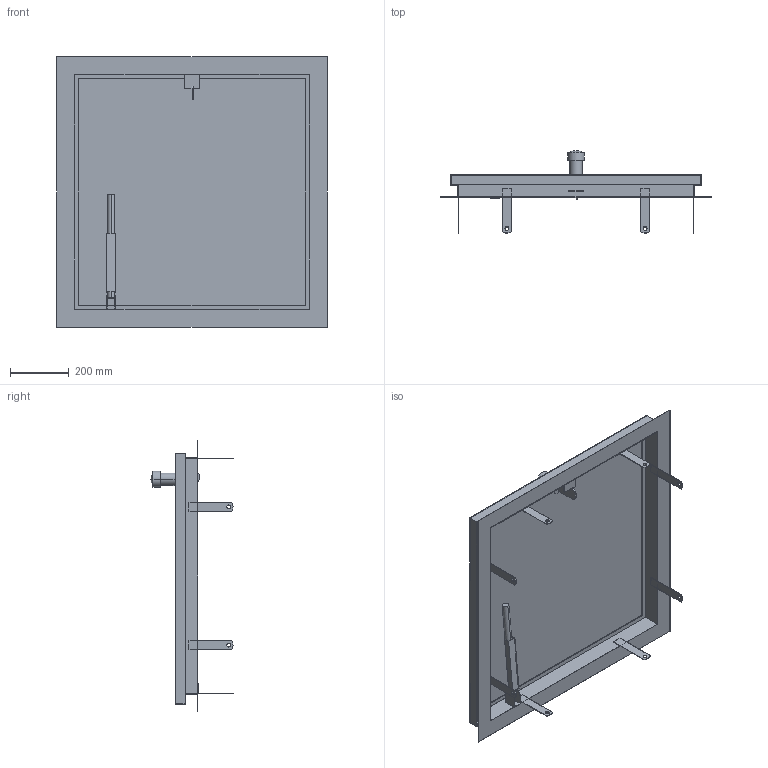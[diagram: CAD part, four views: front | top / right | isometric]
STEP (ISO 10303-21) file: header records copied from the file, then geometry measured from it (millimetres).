
FILE_DESCRIPTION((''),'2;1');
FILE_NAME('52335828','2024-12-19T07:28:10',('wep'),('HUBER SE'),'CREO PARAMETRIC BY PTC INC, 2022162','CREO PARAMETRIC BY PTC INC, 2022162','');
FILE_SCHEMA(('AUTOMOTIVE_DESIGN { 1 0 10303 214 1 1 1 1 }'));
Length unit declared in the file: millimetre
Products named in the file (1): 52335828
Bounding box: 920 x 279 x 920 mm (x, y, z)
Volume: 2961807.6 mm3; surface area: 2716350.5 mm2
Topology: 4 solids, 4 shells, 728 faces, 1984 edges, 1315 vertices
Faces by surface type: plane 416, extrusion 275, cylinder 35, sphere 2
Entity records: 24738 total; most frequent: CARTESIAN_POINT 6628, ORIENTED_EDGE 3964, DIRECTION 2685, EDGE_CURVE 1982, VECTOR 1635, LINE 1360, VERTEX_POINT 1315, B_SPLINE_CURVE_WITH_KNOTS 825
